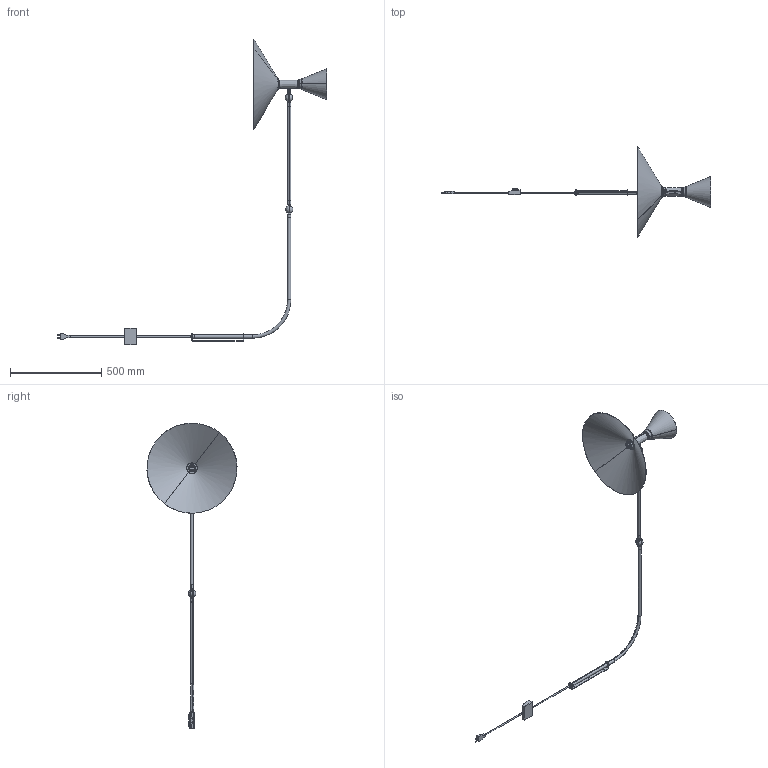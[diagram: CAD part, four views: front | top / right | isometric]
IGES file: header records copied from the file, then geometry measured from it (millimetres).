
Start section: SolidWorks IGES file using analytic representation for surfaces
Global section: file name: H:\importazione sito nemo\IMPORT GIUGNO 2016\materiali\82-lampe-de-marseille\downloads\800LDMEWW311.IGS; native system: SolidWorks 2016; preprocessor: SolidWorks 2016; author: gpinheiro; date: 160705.180445; units: millimetre
Bounding box: 1481.3 x 494.58 x 1677.89 mm (x, y, z)
Volume: 864529 mm3; surface area: 920737.5 mm2
Topology: 46 solids, 46 shells, 1174 faces, 2918 edges, 1844 vertices
Faces by surface type: revolution 608, plane 553, bspline 13
